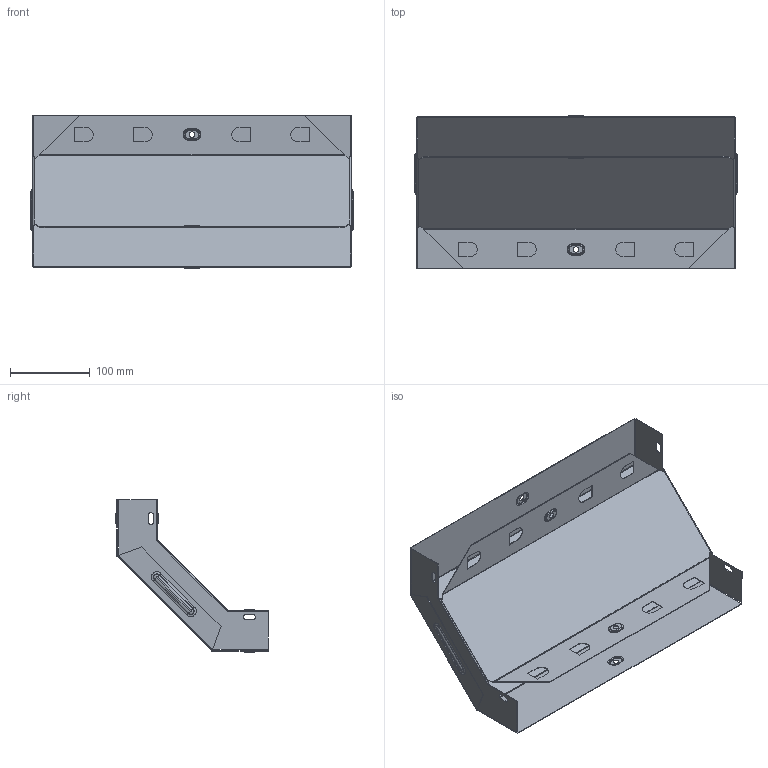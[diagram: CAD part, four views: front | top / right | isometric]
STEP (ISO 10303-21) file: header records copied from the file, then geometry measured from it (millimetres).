
FILE_DESCRIPTION (( 'STEP AP214' ), '1' );
FILE_NAME ('vo9050400_捘.STEP', '2019-06-10T09:09:10', ( '砐錪賧瘔蠈錪 Windows' ), ( '' ), 'SwSTEP 2.0', 'SolidWorks 2018', '' );
FILE_SCHEMA (( 'AUTOMOTIVE_DESIGN' ));
Length unit declared in the file: millimetre
Products named in the file (1): vo9050400_捘
Bounding box: 405.6 x 192.3 x 192.3 mm (x, y, z)
Volume: 191673.5 mm3; surface area: 482593.2 mm2
Topology: 2 solids, 2 shells, 294 faces, 702 edges, 428 vertices
Faces by surface type: plane 116, cylinder 106, torus 64, bspline 8
Entity records: 8725 total; most frequent: CARTESIAN_POINT 1673, DIRECTION 1536, ORIENTED_EDGE 1404, EDGE_CURVE 702, AXIS2_PLACEMENT_3D 579, VERTEX_POINT 428, VECTOR 378, LINE 378
